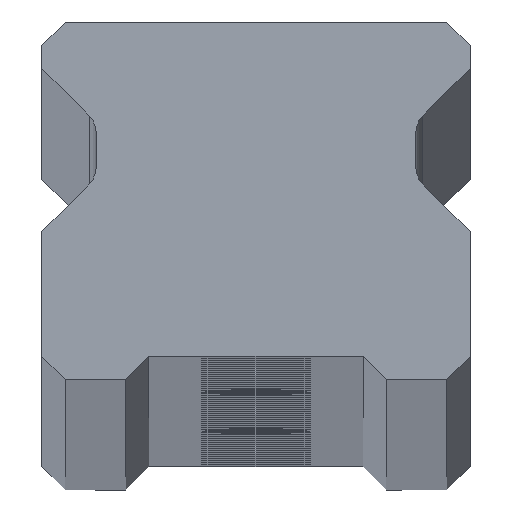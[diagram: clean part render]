
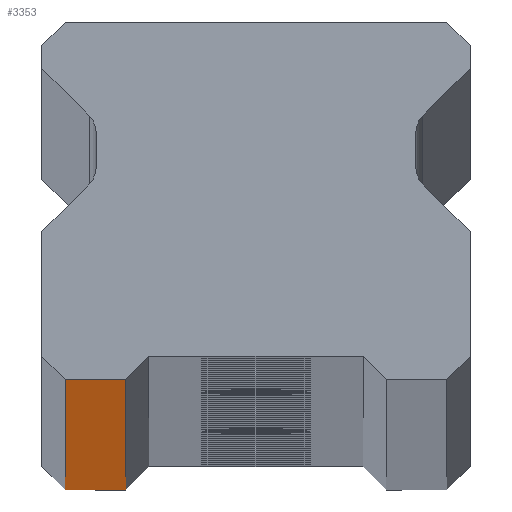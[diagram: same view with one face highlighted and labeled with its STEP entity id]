
A CAD part, top view. The second image highlights one B-rep face of the part: STEP entity #3353.
In plain terms, the highlighted planar face has unit normal (0, -1, 0).
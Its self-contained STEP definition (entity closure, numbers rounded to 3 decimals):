
#139 = VERTEX_POINT ( 'NONE', #11041 ) ;
#202 = DIRECTION ( 'NONE',  ( 0., 1., 0. ) ) ;
#512 = DIRECTION ( 'NONE',  ( 1., 0., 0. ) ) ;
#844 = CARTESIAN_POINT ( 'NONE',  ( -10.25, 0., 1700. ) ) ;
#1259 = CARTESIAN_POINT ( 'NONE',  ( 11.5, 0., 1700. ) ) ;
#1550 = LINE ( 'NONE', #7460, #10636 ) ;
#1884 = AXIS2_PLACEMENT_3D ( 'NONE', #8826, #202, #9749 ) ;
#2845 = ORIENTED_EDGE ( 'NONE', *, *, #8098, .T. ) ;
#3019 = VECTOR ( 'NONE', #512, 1000. ) ;
#3170 = VERTEX_POINT ( 'NONE', #6783 ) ;
#3353 = ADVANCED_FACE ( 'NONE', ( #6523 ), #5457, .F. ) ;
#3419 = DIRECTION ( 'NONE',  ( 0., 0., -1. ) ) ;
#3520 = LINE ( 'NONE', #1259, #4331 ) ;
#3989 = ORIENTED_EDGE ( 'NONE', *, *, #9791, .T. ) ;
#4147 = VERTEX_POINT ( 'NONE', #7212 ) ;
#4331 = VECTOR ( 'NONE', #4798, 1000. ) ;
#4798 = DIRECTION ( 'NONE',  ( 1., 0., 0. ) ) ;
#5457 = PLANE ( 'NONE',  #1884 ) ;
#6338 = EDGE_CURVE ( 'NONE', #4147, #3170, #3520, .T. ) ;
#6523 = FACE_OUTER_BOUND ( 'NONE', #10473, .T. ) ;
#6603 = VERTEX_POINT ( 'NONE', #7710 ) ;
#6611 = LINE ( 'NONE', #8475, #3019 ) ;
#6620 = LINE ( 'NONE', #844, #9648 ) ;
#6783 = CARTESIAN_POINT ( 'NONE',  ( -7., 0., 1700. ) ) ;
#7212 = CARTESIAN_POINT ( 'NONE',  ( -10.25, 0., 1700. ) ) ;
#7460 = CARTESIAN_POINT ( 'NONE',  ( -7., 0., -1700. ) ) ;
#7710 = CARTESIAN_POINT ( 'NONE',  ( -7., 0., -1700. ) ) ;
#8098 = EDGE_CURVE ( 'NONE', #6603, #3170, #1550, .T. ) ;
#8209 = DIRECTION ( 'NONE',  ( 0., 0., 1. ) ) ;
#8475 = CARTESIAN_POINT ( 'NONE',  ( 11.5, 0., -1700. ) ) ;
#8826 = CARTESIAN_POINT ( 'NONE',  ( 11.5, 0., 1700. ) ) ;
#9123 = ORIENTED_EDGE ( 'NONE', *, *, #10017, .T. ) ;
#9648 = VECTOR ( 'NONE', #3419, 1000. ) ;
#9749 = DIRECTION ( 'NONE',  ( -1., 0., 0. ) ) ;
#9791 = EDGE_CURVE ( 'NONE', #139, #6603, #6611, .T. ) ;
#10017 = EDGE_CURVE ( 'NONE', #4147, #139, #6620, .T. ) ;
#10473 = EDGE_LOOP ( 'NONE', ( #3989, #2845, #10751, #9123 ) ) ;
#10636 = VECTOR ( 'NONE', #8209, 1000. ) ;
#10751 = ORIENTED_EDGE ( 'NONE', *, *, #6338, .F. ) ;
#11041 = CARTESIAN_POINT ( 'NONE',  ( -10.25, 0., -1700. ) ) ;
